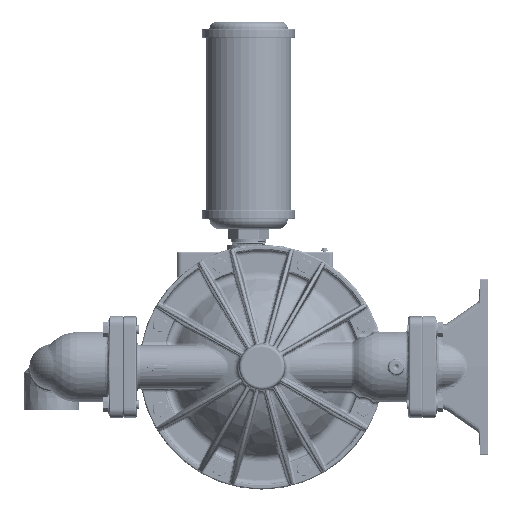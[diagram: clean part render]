
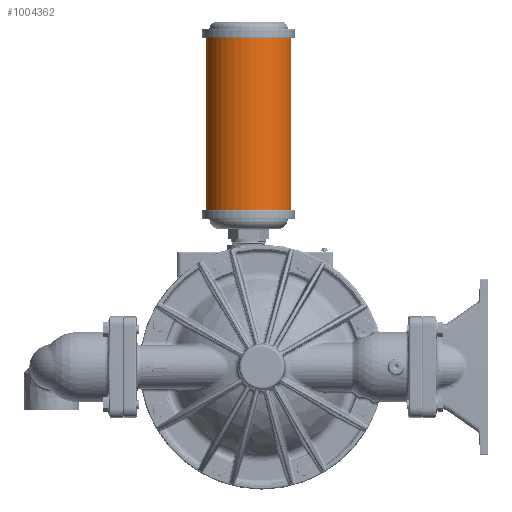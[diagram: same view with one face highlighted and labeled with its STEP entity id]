
A CAD part, left-side view. The second image highlights one B-rep face of the part: STEP entity #1004362.
In plain terms, the highlighted cylindrical face has radius 61.722 mm (diameter 123.444 mm), a partial arc.
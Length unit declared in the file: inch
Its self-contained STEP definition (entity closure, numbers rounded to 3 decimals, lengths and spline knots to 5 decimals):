
#400799=DIRECTION('',(0.,0.,1.));
#400800=VECTOR('',#400799,9.78);
#400801=CARTESIAN_POINT('',(0.,3.18,8.905));
#400802=LINE('',#400801,#400800);
#400803=DIRECTION('',(0.,0.,1.));
#400804=VECTOR('',#400803,9.78);
#400805=CARTESIAN_POINT('',(0.,-1.68,8.905));
#400806=LINE('',#400805,#400804);
#400807=CARTESIAN_POINT('',(0.,0.75,8.905));
#400808=DIRECTION('',(0.,0.,1.));
#400809=DIRECTION('',(0.,1.,0.));
#400810=AXIS2_PLACEMENT_3D('',#400807,#400808,#400809);
#400832=CARTESIAN_POINT('',(0.,0.75,18.685));
#400833=DIRECTION('',(0.,0.,1.));
#400834=DIRECTION('',(0.,1.,0.));
#400835=AXIS2_PLACEMENT_3D('',#400832,#400833,#400834);
#665464=CARTESIAN_POINT('',(0.,3.18,8.905));
#665465=CARTESIAN_POINT('',(0.,3.18,18.685));
#665466=VERTEX_POINT('',#665464);
#665467=VERTEX_POINT('',#665465);
#665468=CARTESIAN_POINT('',(0.,-1.68,8.905));
#665469=CARTESIAN_POINT('',(0.,-1.68,18.685));
#665470=VERTEX_POINT('',#665468);
#665471=VERTEX_POINT('',#665469);
#1004348=CARTESIAN_POINT('',(0.,0.75,20.1725));
#1004349=DIRECTION('',(0.,0.,-1.));
#1004350=DIRECTION('',(0.,-1.,0.));
#1004351=AXIS2_PLACEMENT_3D('',#1004348,#1004349,#1004350);
#1004352=CYLINDRICAL_SURFACE('',#1004351,2.43);
#1004354=ORIENTED_EDGE('',*,*,#1004353,.T.);
#1004356=ORIENTED_EDGE('',*,*,#1004355,.T.);
#1004358=ORIENTED_EDGE('',*,*,#1004357,.F.);
#1004359=ORIENTED_EDGE('',*,*,#1004329,.F.);
#1004360=EDGE_LOOP('',(#1004354,#1004356,#1004358,#1004359));
#1004361=FACE_OUTER_BOUND('',#1004360,.F.);
#400811=CIRCLE('',#400810,2.43);
#400836=CIRCLE('',#400835,2.43);
#1004329=EDGE_CURVE('',#665466,#665470,#400811,.T.);
#1004353=EDGE_CURVE('',#665466,#665467,#400802,.T.);
#1004355=EDGE_CURVE('',#665467,#665471,#400836,.T.);
#1004357=EDGE_CURVE('',#665470,#665471,#400806,.T.);
#1004362=ADVANCED_FACE('',(#1004361),#1004352,.T.);
